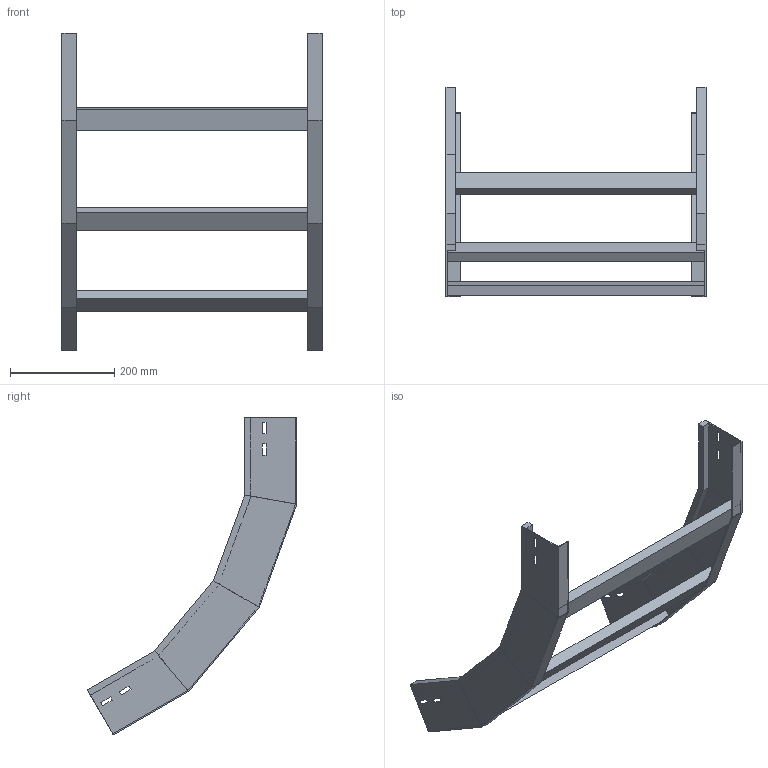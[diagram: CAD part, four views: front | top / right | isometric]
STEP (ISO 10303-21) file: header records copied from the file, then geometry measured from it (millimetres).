
FILE_DESCRIPTION (( 'STEP AP214' ), '1' );
FILE_NAME ('A2X40B5D500XX.step', '2025-03-20T10:12:12', ( '' ), ( '' ), 'SwSTEP 2.0', 'SolidWorks 2023', '' );
FILE_SCHEMA (( 'AUTOMOTIVE_DESIGN' ));
Length unit declared in the file: millimetre
Products named in the file (3): A2X40B5D500XX; LONGH.SALITA_60°_H100_R500; TRAVERSINO_500
Assembly tree (5 placements, depth 2):
  A2X40B5D500XX
    LONGH.SALITA_60°_H100_R500  x2
    TRAVERSINO_500  x3
Bounding box: 500 x 402.87 x 611.18 mm (x, y, z)
Volume: 1812550.8 mm3; surface area: 590091.1 mm2
Topology: 5 solids, 5 shells, 118 faces, 276 edges, 168 vertices
Faces by surface type: plane 118
Entity records: 1672 total; most frequent: CARTESIAN_POINT 276, ORIENTED_EDGE 264, DIRECTION 260, LINE 132, VECTOR 132, EDGE_CURVE 132, VERTEX_POINT 80, AXIS2_PLACEMENT_3D 64
